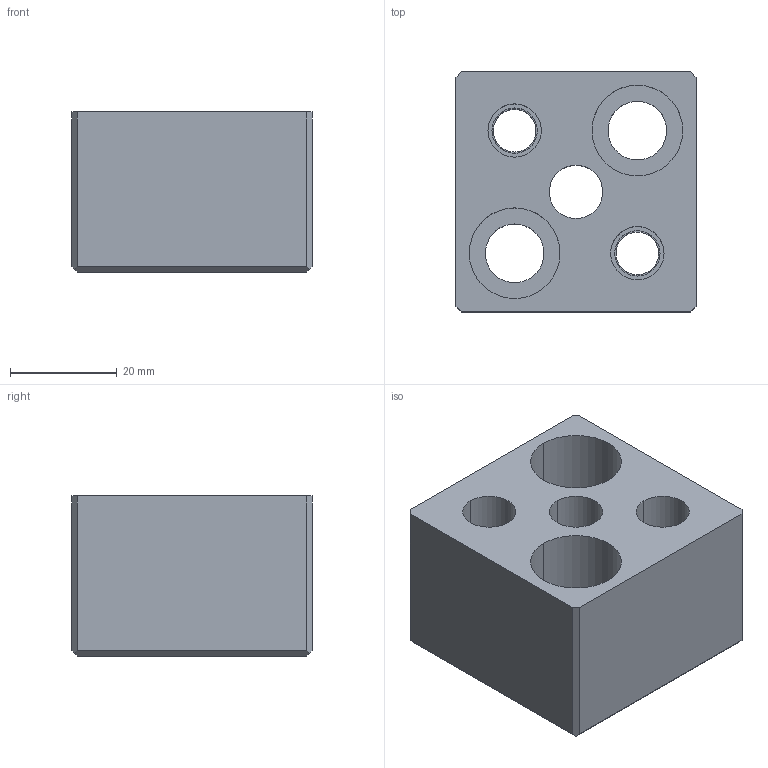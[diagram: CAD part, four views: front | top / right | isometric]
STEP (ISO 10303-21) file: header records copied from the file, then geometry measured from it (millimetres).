
FILE_DESCRIPTION(/* description */ (''),/* implementation_level */ '2;1');
FILE_NAME(/* name */ '3d_sr-an10_05465_r00.stp',/* time_stamp */ '2011-01-10T14:10:00+09:00',/* author */ ('MISUMI'),/* organization */ (''),/* preprocessor_version */ 'ST-DEVELOPER v11',/* originating_system */ 'UGS - NX 5.0',/* authorisation */ '');
FILE_SCHEMA (('CONFIG_CONTROL_DESIGN'));
Length unit declared in the file: millimetre
Products named in the file (1): 3d_sr-an10_05465_r00
Bounding box: 45 x 45 x 30 mm (x, y, z)
Volume: 45122.1 mm3; surface area: 13759.8 mm2
Topology: 1 solids, 1 shells, 47 faces, 112 edges, 74 vertices
Faces by surface type: cylinder 24, plane 21, cone 2
Entity records: 1486 total; most frequent: DIRECTION 258, CARTESIAN_POINT 234, ORIENTED_EDGE 224, EDGE_CURVE 112, AXIS2_PLACEMENT_3D 98, VERTEX_POINT 74, EDGE_LOOP 64, LINE 62
